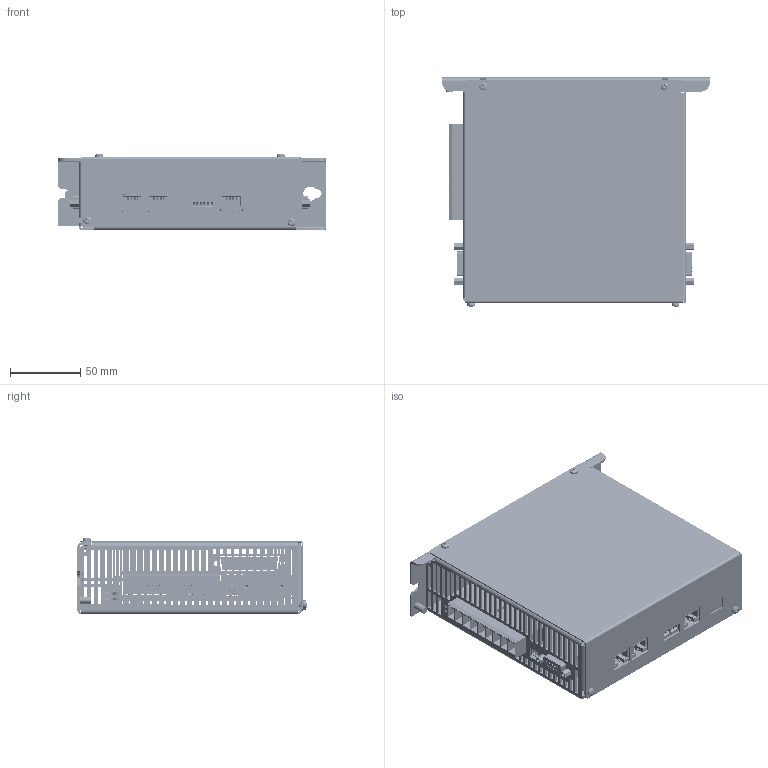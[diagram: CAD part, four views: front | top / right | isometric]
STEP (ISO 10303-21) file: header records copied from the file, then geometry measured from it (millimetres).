
FILE_DESCRIPTION (( 'STEP AP203' ), '1' );
FILE_NAME ('ASM_IMDC_CONNECTEUR.STEP', '2023-01-05T15:27:56', ( '' ), ( '' ), 'SwSTEP 2.0', 'SolidWorks 2020', '' );
FILE_SCHEMA (( 'CONFIG_CONTROL_DESIGN' ));
Length unit declared in the file: millimetre
Products named in the file (19): EMBASE_IMDC-modif.STEP; 27758.stp; 955402881.stp; pxc_1803277_05_MC-1-5-2-G-3-81_3D.stp; Pièce25^ASM_IMDC_CONNECTEUR; User Library-Connector DB-9-f PCB.step; pxc_1757242_06_MSTBA-2-5-2-G-5-08_3D.stp; pxc_1804823_05_PC-4-5-G-7-62_3D; CAPOT_IMDC-modif.step; sos_bsos M3 - 12.STEP; pxc_1803345_05_MC-1-5-9-G-3-81_3D.stp; FHS_136472 FHS M5-10.STEP; User Library-JACK SCREW 3 FOR DB9.step; 43629.stp; ASM_IMDC_CONNECTEUR; User Library-Connector DB-9-m PCB.step; User Library-M3x6mm Phillips.step; pxc_1804810_05_PC-4-4-G-7-62_3D; sera468227.STEP
Assembly tree (27 placements, depth 3):
  ASM_IMDC_CONNECTEUR
    CAPOT_IMDC-modif.step
    EMBASE_IMDC-modif.STEP
      sos_bsos M3 - 12.STEP  x2
      FHS_136472 FHS M5-10.STEP
      sera468227.STEP
    27758.stp
    955402881.stp  x3
    43629.stp
    Pièce25^ASM_IMDC_CONNECTEUR
    User Library-Connector DB-9-m PCB.step
    User Library-Connector DB-9-f PCB.step
    User Library-JACK SCREW 3 FOR DB9.step  x4
    pxc_1804810_05_PC-4-4-G-7-62_3D
    pxc_1804823_05_PC-4-5-G-7-62_3D
    pxc_1757242_06_MSTBA-2-5-2-G-5-08_3D.stp
    pxc_1803345_05_MC-1-5-9-G-3-81_3D.stp
    User Library-M3x6mm Phillips.step  x4
    pxc_1803277_05_MC-1-5-2-G-3-81_3D.stp
Bounding box: 190 x 162.78 x 54.28 mm (x, y, z)
Volume: 130546.6 mm3; surface area: 202232.6 mm2
Topology: 44 solids, 44 shells, 6094 faces, 16404 edges, 10636 vertices
Faces by surface type: plane 4339, cylinder 1498, cone 127, bspline 67, sphere 45, torus 18
Entity records: 160750 total; most frequent: CARTESIAN_POINT 49271, ORIENTED_EDGE 23016, DIRECTION 21580, EDGE_CURVE 11508, VECTOR 9086, LINE 9086, VERTEX_POINT 7447, AXIS2_PLACEMENT_3D 6247
